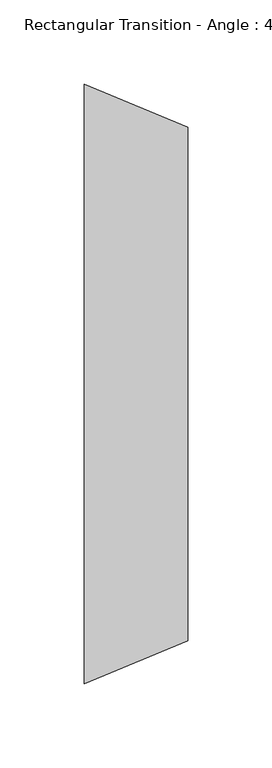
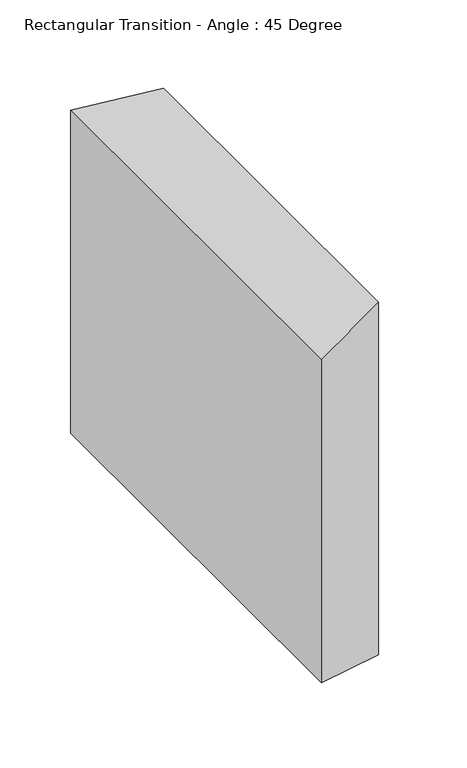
"""IFC4 building model written with IfcOpenShell, lengths in millimetres: duct fitting geometry, Rectangular Transition - Angle : 45 Degree."""

from ifc_helpers import new_model, si_unit, origin, place, context, project, spatial, faceted_brep, source, transform, mapped, element, save


def rectangular_transition_angle_45_degree_69fbfd40(model_context):
    return source(origin(), model_context, "Body", "Brep", [
        faceted_brep([(61.3210245, -152.4, 152.4), (61.3210245, -152.4, -152.4), (61.3210245, 152.4, -152.4), (61.3210245, 152.4, 152.4), (0.0, -177.8, 139.7), (0.0, 177.8, 139.7), (0.0, 177.8, -139.7), (0.0, -177.8, -139.7)], [[[0, 1, 2, 3]], [[4, 5, 6, 7]], [[4, 7, 1, 0]], [[7, 6, 2, 1]], [[6, 5, 3, 2]], [[5, 4, 0, 3]]]),
    ])


if __name__ == "__main__":
    model = new_model("IFC4")
    model_context = context("Model", 3, world=origin())
    ifc_project = project(units=[si_unit("LENGTHUNIT", "METRE", prefix="MILLI")], contexts=[model_context])
    site = spatial("IfcSite", under=ifc_project)
    building = spatial("IfcBuilding", under=site)
    placement = place(None, origin())
    rectangular_transition_angle_45_degree_shape = rectangular_transition_angle_45_degree_69fbfd40(model_context)
    element("IfcDuctFitting", 1, ObjectType="Rectangular Transition - Angle : 45 Degree", at=placement, inside=building, context=model_context, shape_type="MappedRepresentation", body=[
        mapped(rectangular_transition_angle_45_degree_shape, transform((0.0, 0.0, 0.0), x_axis=(1.0, 0.0, 0.0), y_axis=(0.0, 1.0, 0.0), z_axis=(0.0, 0.0, 1.0))),
    ])
    save(model, "model.ifc")
